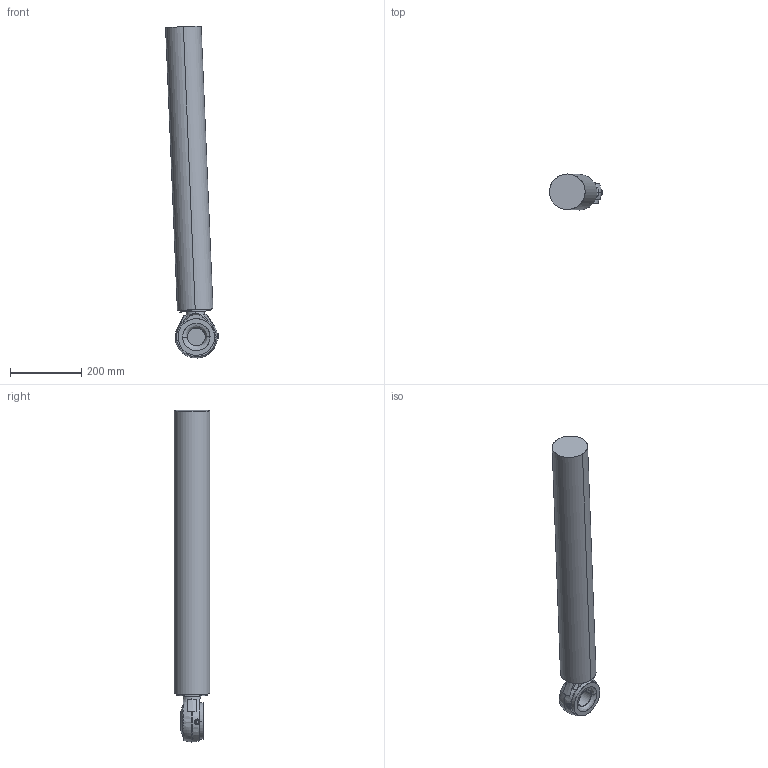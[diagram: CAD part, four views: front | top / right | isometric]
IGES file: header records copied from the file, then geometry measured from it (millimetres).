
Start section: SolidWorks IGES file using analytic representation for surfaces
Global section: file name: C:\Users\SEJAOLS6\OneDrive - ABB\Documents\SAP\7710\7710_Lightweight_models\IRB7710-LID-MH_280kg-350_OC_01_SW_J\IRB7710-LID-MH_280kg-350_OC_01_IGES_J\IRB77X0_All_OC_00_ROD_CAD.igs; native system: SolidWorks 2024; preprocessor: SolidWorks 2024; author: SEJAOLS6; date: 260126.160118; units: millimetre
Bounding box: 148.57 x 100 x 933.28 mm (x, y, z)
Surface area: 314134.9 mm2 (no closed solid volume)
Topology: 0 solids, 0 shells, 87 faces, 2241 edges, 2241 vertices
Faces by surface type: revolution 53, bspline 34
